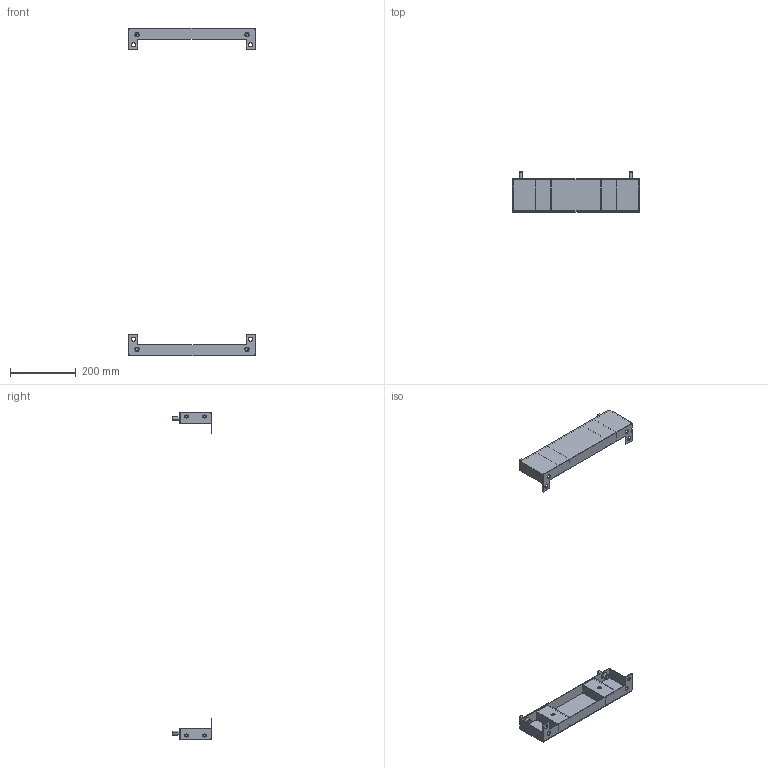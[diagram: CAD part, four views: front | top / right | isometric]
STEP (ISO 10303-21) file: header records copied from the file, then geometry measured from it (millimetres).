
FILE_DESCRIPTION (( 'STEP AP203' ), '1' );
FILE_NAME ('R6PLB45 H=1000.STEP', '2025-05-16T11:42:52', ( '' ), ( '' ), 'SwSTEP 2.0', 'SolidWorks 2022', '' );
FILE_SCHEMA (( 'CONFIG_CONTROL_DESIGN' ));
Length unit declared in the file: millimetre
Products named in the file (8): RB.3309.00.00.0 СБ simple_-03; RB.3309.00.02.0 simple; 12 DIN 6798 A Zinc; RB.3309.00.01.0 simple_-03; M12x25 DIN 912 HX cl.8,8 Zinc_stright; M6 MGS-MPO-0635_straight; R6PLB45 H=1000; M6 MGS-MPO-0635_thread
Assembly tree (19 placements, depth 3):
  R6PLB45 H=1000
    RB.3309.00.00.0 СБ simple_-03  x2
      RB.3309.00.01.0 simple_-03
      M6 MGS-MPO-0635_thread
      RB.3309.00.02.0 simple
      M6 MGS-MPO-0635_straight
    12 DIN 6798 A Zinc  x4
    M12x25 DIN 912 HX cl.8,8 Zinc_stright  x4
Bounding box: 386.7 x 121.5 x 1000 mm (x, y, z)
Volume: 476550.8 mm3; surface area: 394025.4 mm2
Topology: 26 solids, 26 shells, 1568 faces, 4128 edges, 2388 vertices
Faces by surface type: plane 640, cylinder 544, bspline 168, sphere 144, cone 40, torus 32
Entity records: 15002 total; most frequent: CARTESIAN_POINT 5755, ORIENTED_EDGE 1768, DIRECTION 1539, EDGE_CURVE 884, VERTEX_POINT 558, LINE 533, VECTOR 533, AXIS2_PLACEMENT_3D 503
